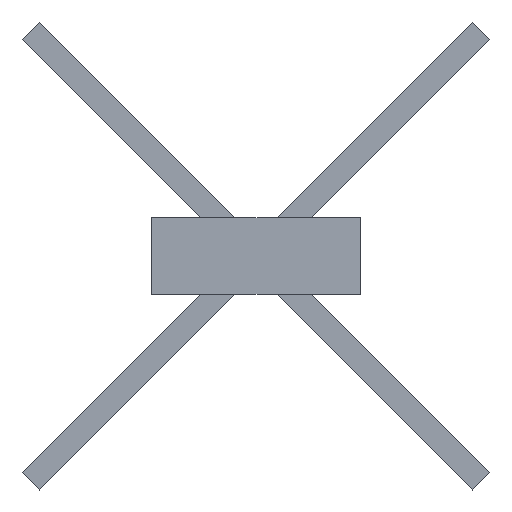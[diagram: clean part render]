
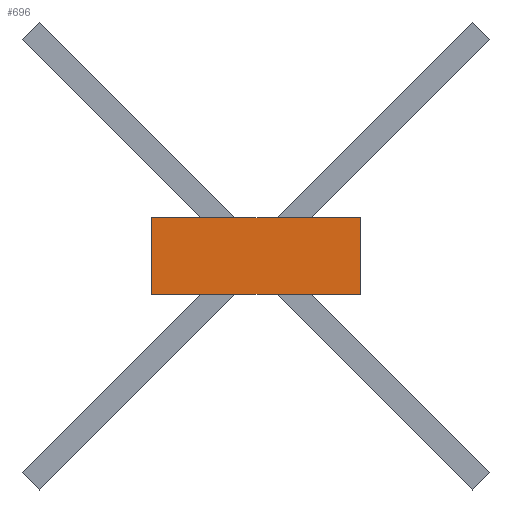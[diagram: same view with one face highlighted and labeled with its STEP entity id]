
A CAD part, top view. The second image highlights one B-rep face of the part: STEP entity #696.
In plain terms, the highlighted planar face has unit normal (0, 0, 1).
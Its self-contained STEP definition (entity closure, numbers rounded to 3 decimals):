
#519 = VERTEX_POINT('',#520);
#520 = CARTESIAN_POINT('',(-60.,22.,40.));
#526 = EDGE_CURVE('',#519,#527,#529,.T.);
#527 = VERTEX_POINT('',#528);
#528 = CARTESIAN_POINT('',(60.,22.,40.));
#529 = LINE('',#530,#531);
#530 = CARTESIAN_POINT('',(-60.,22.,40.));
#531 = VECTOR('',#532,1.);
#532 = DIRECTION('',(1.,0.,0.));
#677 = VERTEX_POINT('',#678);
#678 = CARTESIAN_POINT('',(60.,-22.,40.));
#686 = EDGE_CURVE('',#677,#527,#687,.T.);
#687 = LINE('',#688,#689);
#688 = CARTESIAN_POINT('',(60.,-22.,40.));
#689 = VECTOR('',#690,1.);
#690 = DIRECTION('',(0.,1.,0.));
#696 = ADVANCED_FACE('',(#697),#715,.T.);
#697 = FACE_BOUND('',#698,.T.);
#698 = EDGE_LOOP('',(#699,#707,#713,#714));
#699 = ORIENTED_EDGE('',*,*,#700,.F.);
#700 = EDGE_CURVE('',#701,#519,#703,.T.);
#701 = VERTEX_POINT('',#702);
#702 = CARTESIAN_POINT('',(-60.,-22.,40.));
#703 = LINE('',#704,#705);
#704 = CARTESIAN_POINT('',(-60.,-22.,40.));
#705 = VECTOR('',#706,1.);
#706 = DIRECTION('',(0.,1.,0.));
#707 = ORIENTED_EDGE('',*,*,#708,.T.);
#708 = EDGE_CURVE('',#701,#677,#709,.T.);
#709 = LINE('',#710,#711);
#710 = CARTESIAN_POINT('',(-60.,-22.,40.));
#711 = VECTOR('',#712,1.);
#712 = DIRECTION('',(1.,0.,0.));
#713 = ORIENTED_EDGE('',*,*,#686,.T.);
#714 = ORIENTED_EDGE('',*,*,#526,.F.);
#715 = PLANE('',#716);
#716 = AXIS2_PLACEMENT_3D('',#717,#718,#719);
#717 = CARTESIAN_POINT('',(-60.,-22.,40.));
#718 = DIRECTION('',(0.,0.,1.));
#719 = DIRECTION('',(1.,0.,0.));
